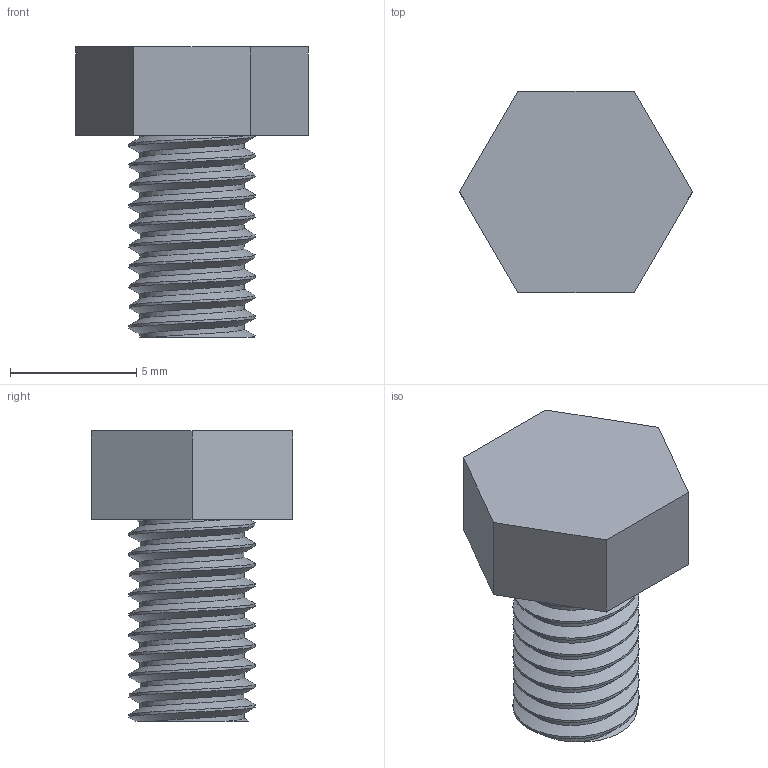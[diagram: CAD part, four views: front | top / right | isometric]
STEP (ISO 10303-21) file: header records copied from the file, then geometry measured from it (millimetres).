
FILE_DESCRIPTION(('Open CASCADE Model'),'2;1');
FILE_NAME('Open CASCADE Shape Model','2026-11-25T12:51:46',('Author'),( 'Open CASCADE'),'Open CASCADE STEP processor 8.0','Open CASCADE 8.0' ,'Unknown');
FILE_SCHEMA(('AP242_MANAGED_MODEL_BASED_3D_ENGINEERING_MIM_LF {1 0 10303 442 1 1 4 }' ));
Length unit declared in the file: millimetre
Products named in the file (1): Hand-built shank
Bounding box: 9.24 x 8 x 11.5 mm (x, y, z)
Volume: 322.7 mm3; surface area: 393.2 mm2
Topology: 1 solids, 1 shells, 22 faces, 57 edges, 38 vertices
Faces by surface type: cylinder 10, plane 9, bspline 3
Full cylindrical faces by diameter (mm): 5 x8
Entity records: 12645 total; most frequent: CARTESIAN_POINT 11634, DIRECTION 128, ORIENTED_EDGE 114, PCURVE 114, DEFINITIONAL_REPRESENTATION 114, B_SPLINE_CURVE_WITH_KNOTS 84, LINE 83, VECTOR 83
